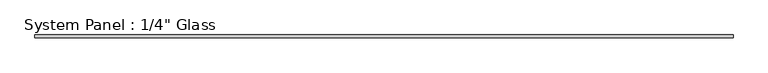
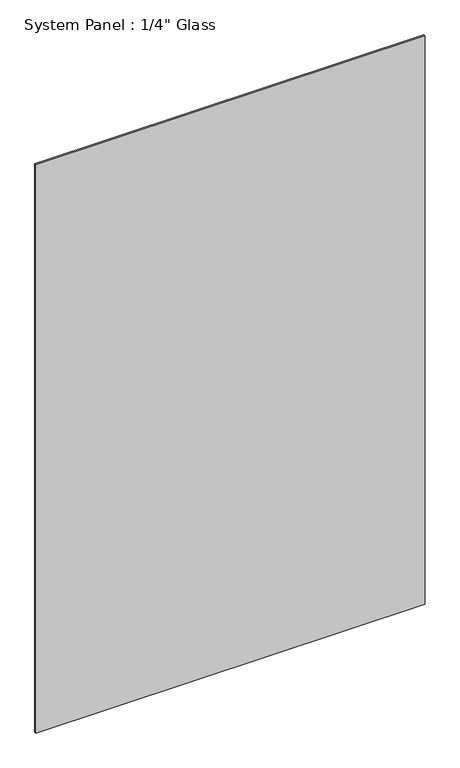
"""IFC4 building model written with IfcOpenShell, lengths in millimetres: plate geometry."""

from ifc_helpers import new_model, si_unit, origin, origin_with_axes, place, context, project, spatial, polyline, outline, extrude, source, transform, mapped, element, save


def plate_bbcbcabf(model_context):
    return source(origin(), model_context, "Body", "SweptSolid", [
        extrude(outline(polyline([(806.7530678, -3.175), (-806.7530678, -3.175), (-806.7530678, 3.175), (806.7530678, 3.175), (806.7530678, -3.175)])), origin_with_axes(), (0.0, 0.0, 1.0), 2489.2),
    ])


if __name__ == "__main__":
    model = new_model("IFC4")
    model_context = context("Model", 3, world=origin())
    ifc_project = project(units=[si_unit("LENGTHUNIT", "METRE", prefix="MILLI")], contexts=[model_context])
    site = spatial("IfcSite", under=ifc_project)
    building = spatial("IfcBuilding", under=site)
    placement = place(None, origin())
    plate_shape = plate_bbcbcabf(model_context)
    element("IfcPlate", 1, ObjectType="System Panel : 1/4\" Glass", at=placement, inside=building, context=model_context, shape_type="MappedRepresentation", body=[
        mapped(plate_shape, transform((0.0, 0.0, 0.0), x_axis=(1.0, 0.0, 0.0), y_axis=(0.0, 1.0, 0.0), z_axis=(0.0, 0.0, 1.0))),
    ])
    save(model, "model.ifc")
